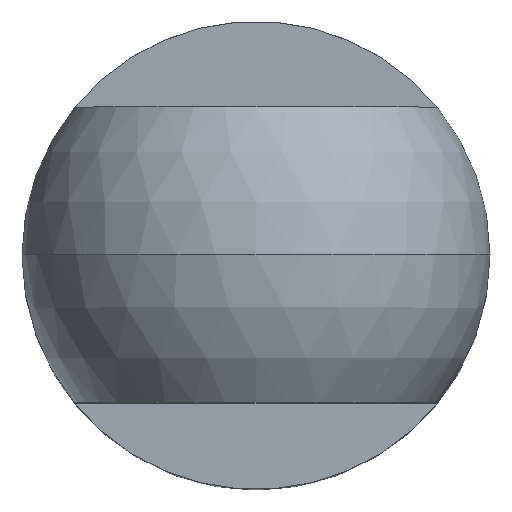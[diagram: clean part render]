
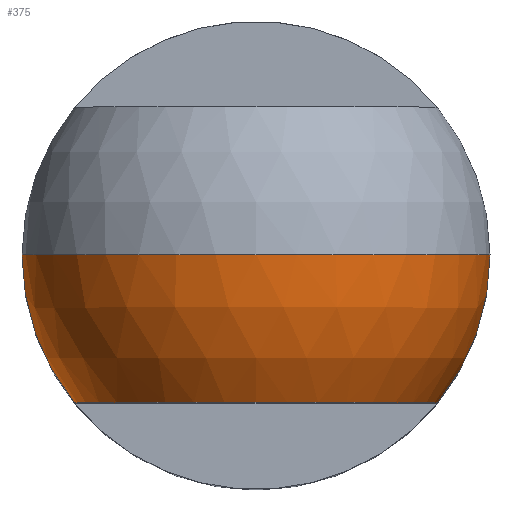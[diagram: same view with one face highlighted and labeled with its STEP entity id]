
A CAD part, top view. The second image highlights one B-rep face of the part: STEP entity #375.
In plain terms, the highlighted spherical face has radius 9.5 mm.
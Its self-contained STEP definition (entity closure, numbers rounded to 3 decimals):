
#17 = DIRECTION ( 'NONE',  ( -1., 0., 0. ) ) ;
#19 = EDGE_CURVE ( 'NONE', #123, #341, #304, .T. ) ;
#35 = ORIENTED_EDGE ( 'NONE', *, *, #19, .F. ) ;
#43 = DIRECTION ( 'NONE',  ( 0., -1., 0. ) ) ;
#44 = EDGE_CURVE ( 'NONE', #239, #123, #217, .T. ) ;
#54 = CARTESIAN_POINT ( 'NONE',  ( -7.365, -6., 25. ) ) ;
#90 = EDGE_CURVE ( 'NONE', #176, #341, #467, .T. ) ;
#123 = VERTEX_POINT ( 'NONE', #54 ) ;
#128 = AXIS2_PLACEMENT_3D ( 'NONE', #178, #501, #17 ) ;
#174 = EDGE_CURVE ( 'NONE', #176, #415, #558, .T. ) ;
#176 = VERTEX_POINT ( 'NONE', #309 ) ;
#178 = CARTESIAN_POINT ( 'NONE',  ( 0., 0., 25. ) ) ;
#189 = SPHERICAL_SURFACE ( 'NONE', #553, 9.5 ) ;
#197 = DIRECTION ( 'NONE',  ( 0., 0., -1. ) ) ;
#213 = CARTESIAN_POINT ( 'NONE',  ( 0., 0., 25. ) ) ;
#216 = DIRECTION ( 'NONE',  ( 0., 1., 0. ) ) ;
#217 = CIRCLE ( 'NONE', #224, 7.365 ) ;
#224 = AXIS2_PLACEMENT_3D ( 'NONE', #250, #43, #293 ) ;
#237 = CARTESIAN_POINT ( 'NONE',  ( 9.5, 0., 25. ) ) ;
#239 = VERTEX_POINT ( 'NONE', #496 ) ;
#250 = CARTESIAN_POINT ( 'NONE',  ( 0., -6., 25. ) ) ;
#275 = AXIS2_PLACEMENT_3D ( 'NONE', #616, #197, #570 ) ;
#284 = ORIENTED_EDGE ( 'NONE', *, *, #174, .F. ) ;
#293 = DIRECTION ( 'NONE',  ( 1., 0., 0. ) ) ;
#303 = DIRECTION ( 'NONE',  ( -1., 0., 0. ) ) ;
#304 = CIRCLE ( 'NONE', #275, 9.5 ) ;
#309 = CARTESIAN_POINT ( 'NONE',  ( 0., 0., 34.5 ) ) ;
#317 = FACE_OUTER_BOUND ( 'NONE', #579, .T. ) ;
#341 = VERTEX_POINT ( 'NONE', #407 ) ;
#349 = AXIS2_PLACEMENT_3D ( 'NONE', #213, #216, #303 ) ;
#350 = CIRCLE ( 'NONE', #128, 9.5 ) ;
#375 = ADVANCED_FACE ( 'NONE', ( #317 ), #189, .T. ) ;
#378 = CARTESIAN_POINT ( 'NONE',  ( 0., 0., 25. ) ) ;
#407 = CARTESIAN_POINT ( 'NONE',  ( -9.5, 0., 25. ) ) ;
#414 = DIRECTION ( 'NONE',  ( 0., 1., 0. ) ) ;
#415 = VERTEX_POINT ( 'NONE', #237 ) ;
#464 = ORIENTED_EDGE ( 'NONE', *, *, #44, .F. ) ;
#467 = CIRCLE ( 'NONE', #611, 9.5 ) ;
#483 = EDGE_CURVE ( 'NONE', #415, #239, #350, .T. ) ;
#485 = DIRECTION ( 'NONE',  ( 0., 0., -1. ) ) ;
#488 = CARTESIAN_POINT ( 'NONE',  ( 0., 0., 25. ) ) ;
#496 = CARTESIAN_POINT ( 'NONE',  ( 7.365, -6., 25. ) ) ;
#500 = ORIENTED_EDGE ( 'NONE', *, *, #483, .F. ) ;
#501 = DIRECTION ( 'NONE',  ( 0., 0., -1. ) ) ;
#531 = DIRECTION ( 'NONE',  ( 0., -1., 0. ) ) ;
#553 = AXIS2_PLACEMENT_3D ( 'NONE', #378, #414, #601 ) ;
#558 = CIRCLE ( 'NONE', #349, 9.5 ) ;
#570 = DIRECTION ( 'NONE',  ( -1., 0., 0. ) ) ;
#579 = EDGE_LOOP ( 'NONE', ( #284, #627, #35, #464, #500 ) ) ;
#601 = DIRECTION ( 'NONE',  ( -1., 0., 0. ) ) ;
#611 = AXIS2_PLACEMENT_3D ( 'NONE', #488, #531, #485 ) ;
#616 = CARTESIAN_POINT ( 'NONE',  ( 0., 0., 25. ) ) ;
#627 = ORIENTED_EDGE ( 'NONE', *, *, #90, .T. ) ;
